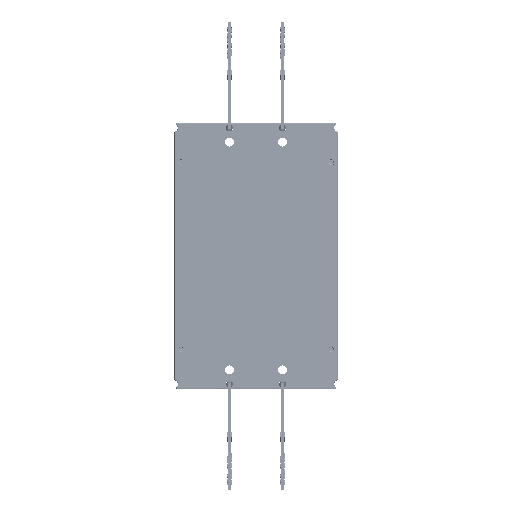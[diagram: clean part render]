
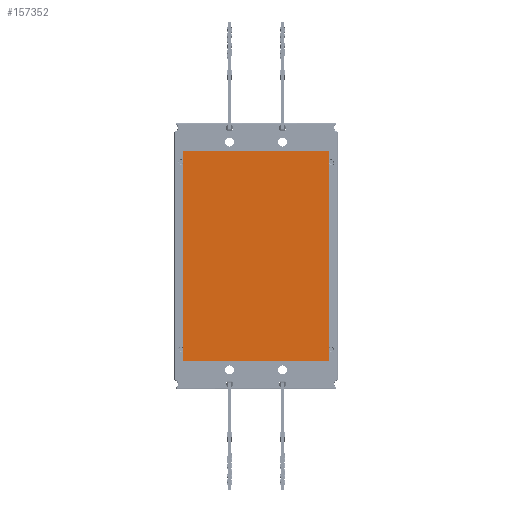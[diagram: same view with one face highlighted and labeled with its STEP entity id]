
A CAD part, front view. The second image highlights one B-rep face of the part: STEP entity #157352.
In plain terms, the highlighted planar face has unit normal (0, -1, 0) as drawn and (0, 1, 0) by its records, which use the part's own axes.
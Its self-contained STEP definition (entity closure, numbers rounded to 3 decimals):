
#157237=DIRECTION('',(0.,0.,1.));
#157238=VECTOR('',#157237,118.5);
#157239=CARTESIAN_POINT('',(-41.5,1.2,-59.25));
#157240=LINE('',#157239,#157238);
#157241=DIRECTION('',(-1.,0.,0.));
#157242=VECTOR('',#157241,83.);
#157243=CARTESIAN_POINT('',(41.5,1.2,-59.25));
#157244=LINE('',#157243,#157242);
#157245=DIRECTION('',(0.,0.,-1.));
#157246=VECTOR('',#157245,118.5);
#157247=CARTESIAN_POINT('',(41.5,1.2,59.25));
#157248=LINE('',#157247,#157246);
#157249=DIRECTION('',(1.,0.,0.));
#157250=VECTOR('',#157249,83.);
#157251=CARTESIAN_POINT('',(-41.5,1.2,59.25));
#157252=LINE('',#157251,#157250);
#157261=CARTESIAN_POINT('',(-41.5,1.2,-59.25));
#157262=CARTESIAN_POINT('',(-41.5,1.2,59.25));
#157263=VERTEX_POINT('',#157261);
#157264=VERTEX_POINT('',#157262);
#157265=CARTESIAN_POINT('',(41.5,1.2,59.25));
#157266=VERTEX_POINT('',#157265);
#157267=CARTESIAN_POINT('',(41.5,1.2,-59.25));
#157268=VERTEX_POINT('',#157267);
#157341=CARTESIAN_POINT('',(0.,1.2,0.));
#157342=DIRECTION('',(0.,1.,0.));
#157343=DIRECTION('',(1.,0.,0.));
#157344=AXIS2_PLACEMENT_3D('',#157341,#157342,#157343);
#157345=PLANE('',#157344);
#157346=ORIENTED_EDGE('',*,*,#157293,.F.);
#157347=ORIENTED_EDGE('',*,*,#157308,.F.);
#157348=ORIENTED_EDGE('',*,*,#157322,.F.);
#157349=ORIENTED_EDGE('',*,*,#157335,.F.);
#157350=EDGE_LOOP('',(#157346,#157347,#157348,#157349));
#157351=FACE_OUTER_BOUND('',#157350,.F.);
#157352=ADVANCED_FACE('',(#157351),#157345,.T.);
#157293=EDGE_CURVE('',#157263,#157264,#157240,.T.);
#157308=EDGE_CURVE('',#157268,#157263,#157244,.T.);
#157322=EDGE_CURVE('',#157266,#157268,#157248,.T.);
#157335=EDGE_CURVE('',#157264,#157266,#157252,.T.);
